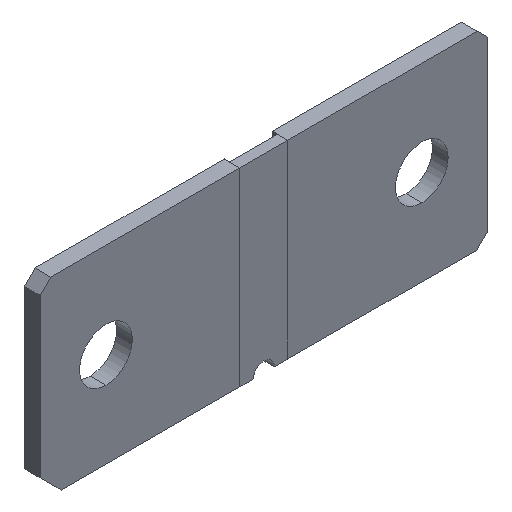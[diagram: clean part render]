
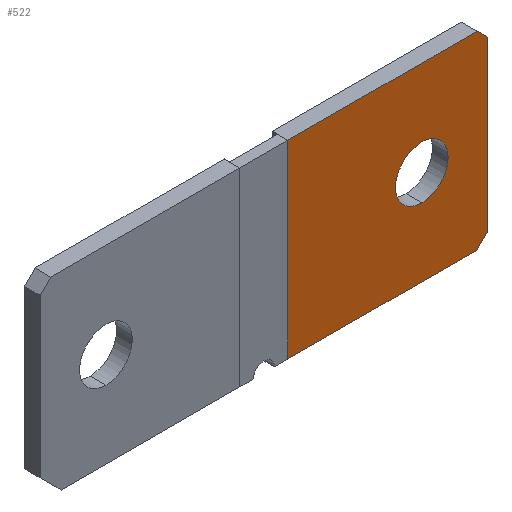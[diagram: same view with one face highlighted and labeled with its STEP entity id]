
A CAD part, isometric view. The second image highlights one B-rep face of the part: STEP entity #522.
In plain terms, the highlighted planar face has unit normal (0, -1, 0).
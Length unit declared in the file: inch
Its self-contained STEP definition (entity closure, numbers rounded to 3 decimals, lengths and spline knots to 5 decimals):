
#58 = FACE_OUTER_BOUND ( 'NONE', #784, .T. ) ;
#60 = CARTESIAN_POINT ( 'NONE',  ( -0.4978, 0., -0.71093 ) ) ;
#61 = CARTESIAN_POINT ( 'NONE',  ( 0.5032, 0., 0.19457 ) ) ;
#74 = EDGE_CURVE ( 'NONE', #482, #785, #738, .T. ) ;
#79 = CARTESIAN_POINT ( 'NONE',  ( -0.4978, 0., 0.70607 ) ) ;
#82 = DIRECTION ( 'NONE',  ( 0., 1., 0. ) ) ;
#91 = LINE ( 'NONE', #425, #956 ) ;
#119 = ORIENTED_EDGE ( 'NONE', *, *, #213, .F. ) ;
#134 = EDGE_CURVE ( 'NONE', #506, #886, #91, .T. ) ;
#151 = CARTESIAN_POINT ( 'NONE',  ( 0.9162, 0., -0.71093 ) ) ;
#163 = VECTOR ( 'NONE', #585, 39.37008 ) ;
#174 = LINE ( 'NONE', #509, #163 ) ;
#199 = DIRECTION ( 'NONE',  ( 0., 0., 1. ) ) ;
#213 = EDGE_CURVE ( 'NONE', #773, #607, #174, .T. ) ;
#230 = CARTESIAN_POINT ( 'NONE',  ( 0.9162, 0., 0.70607 ) ) ;
#237 = CARTESIAN_POINT ( 'NONE',  ( 0.9952, 0., 0.62707 ) ) ;
#264 = CIRCLE ( 'NONE', #875, 0.197 ) ;
#269 = VECTOR ( 'NONE', #999, 39.37008 ) ;
#303 = CARTESIAN_POINT ( 'NONE',  ( -0.4978, 0., -0.71093 ) ) ;
#311 = VECTOR ( 'NONE', #199, 39.37008 ) ;
#338 = CARTESIAN_POINT ( 'NONE',  ( 0.5032, 0., -0.00243 ) ) ;
#346 = DIRECTION ( 'NONE',  ( -1., 0., 0. ) ) ;
#348 = ORIENTED_EDGE ( 'NONE', *, *, #725, .F. ) ;
#388 = LINE ( 'NONE', #303, #311 ) ;
#408 = CARTESIAN_POINT ( 'NONE',  ( 0.9952, 0., -0.63193 ) ) ;
#425 = CARTESIAN_POINT ( 'NONE',  ( -0.4978, 0., -0.71093 ) ) ;
#469 = DIRECTION ( 'NONE',  ( 0., 1., 0. ) ) ;
#474 = CARTESIAN_POINT ( 'NONE',  ( 0.9952, 0., 0.62707 ) ) ;
#482 = VERTEX_POINT ( 'NONE', #474 ) ;
#484 = ORIENTED_EDGE ( 'NONE', *, *, #134, .F. ) ;
#506 = VERTEX_POINT ( 'NONE', #151 ) ;
#509 = CARTESIAN_POINT ( 'NONE',  ( -0.4978, 0., 0.70607 ) ) ;
#522 = ADVANCED_FACE ( 'NONE', ( #621, #58 ), #813, .F. ) ;
#556 = CARTESIAN_POINT ( 'NONE',  ( 0., 0., 0. ) ) ;
#561 = ORIENTED_EDGE ( 'NONE', *, *, #879, .F. ) ;
#573 = EDGE_CURVE ( 'NONE', #641, #673, #757, .T. ) ;
#585 = DIRECTION ( 'NONE',  ( 1., 0., 0. ) ) ;
#589 = DIRECTION ( 'NONE',  ( 0., 0., 1. ) ) ;
#593 = ORIENTED_EDGE ( 'NONE', *, *, #913, .F. ) ;
#607 = VERTEX_POINT ( 'NONE', #230 ) ;
#621 = FACE_BOUND ( 'NONE', #761, .T. ) ;
#631 = DIRECTION ( 'NONE',  ( 0.707, 0., -0.707 ) ) ;
#638 = DIRECTION ( 'NONE',  ( -0.707, 0., -0.707 ) ) ;
#641 = VERTEX_POINT ( 'NONE', #61 ) ;
#673 = VERTEX_POINT ( 'NONE', #1064 ) ;
#705 = DIRECTION ( 'NONE',  ( 0., 1., 0. ) ) ;
#713 = CARTESIAN_POINT ( 'NONE',  ( 0.5032, 0., -0.00243 ) ) ;
#719 = VECTOR ( 'NONE', #631, 39.37008 ) ;
#725 = EDGE_CURVE ( 'NONE', #607, #482, #983, .T. ) ;
#738 = LINE ( 'NONE', #922, #269 ) ;
#757 = CIRCLE ( 'NONE', #905, 0.197 ) ;
#761 = EDGE_LOOP ( 'NONE', ( #1044, #902 ) ) ;
#773 = VERTEX_POINT ( 'NONE', #79 ) ;
#781 = VECTOR ( 'NONE', #638, 39.37008 ) ;
#784 = EDGE_LOOP ( 'NONE', ( #561, #484, #593, #862, #348, #119 ) ) ;
#785 = VERTEX_POINT ( 'NONE', #408 ) ;
#802 = CARTESIAN_POINT ( 'NONE',  ( 0.9162, 0., -0.71093 ) ) ;
#813 = PLANE ( 'NONE',  #1000 ) ;
#815 = LINE ( 'NONE', #802, #781 ) ;
#862 = ORIENTED_EDGE ( 'NONE', *, *, #74, .F. ) ;
#875 = AXIS2_PLACEMENT_3D ( 'NONE', #338, #82, #589 ) ;
#879 = EDGE_CURVE ( 'NONE', #886, #773, #388, .T. ) ;
#886 = VERTEX_POINT ( 'NONE', #60 ) ;
#902 = ORIENTED_EDGE ( 'NONE', *, *, #1031, .T. ) ;
#905 = AXIS2_PLACEMENT_3D ( 'NONE', #713, #469, #1046 ) ;
#913 = EDGE_CURVE ( 'NONE', #785, #506, #815, .T. ) ;
#922 = CARTESIAN_POINT ( 'NONE',  ( 0.9952, 0., -0.63193 ) ) ;
#956 = VECTOR ( 'NONE', #346, 39.37008 ) ;
#983 = LINE ( 'NONE', #237, #719 ) ;
#999 = DIRECTION ( 'NONE',  ( 0., 0., -1. ) ) ;
#1000 = AXIS2_PLACEMENT_3D ( 'NONE', #556, #705, #1039 ) ;
#1031 = EDGE_CURVE ( 'NONE', #673, #641, #264, .T. ) ;
#1039 = DIRECTION ( 'NONE',  ( 0., 0., 1. ) ) ;
#1044 = ORIENTED_EDGE ( 'NONE', *, *, #573, .T. ) ;
#1046 = DIRECTION ( 'NONE',  ( 0., 0., 1. ) ) ;
#1064 = CARTESIAN_POINT ( 'NONE',  ( 0.5032, 0., -0.19943 ) ) ;
